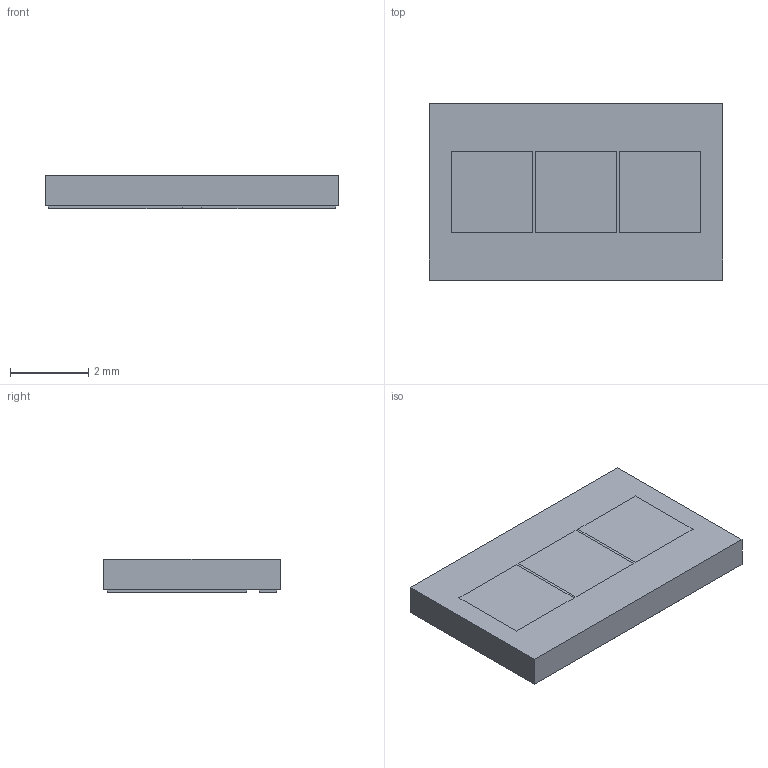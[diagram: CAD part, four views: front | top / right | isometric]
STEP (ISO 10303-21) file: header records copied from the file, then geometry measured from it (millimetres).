
FILE_DESCRIPTION (( 'STEP AP214' ), '1' );
FILE_NAME ('HML3-H8.STEP', '2019-12-31T01:40:43', ( 'PC' ), ( 'Microsoft' ), 'SwSTEP 2.0', 'SolidWorks 2018', '' );
FILE_SCHEMA (( 'AUTOMOTIVE_DESIGN' ));
Length unit declared in the file: millimetre
Products named in the file (1): HML3-H8
Bounding box: 7.5 x 4.5 x 0.85 mm (x, y, z)
Volume: 28.4 mm3; surface area: 88.8 mm2
Topology: 1 solids, 1 shells, 46 faces, 111 edges, 74 vertices
Faces by surface type: plane 46
Entity records: 1855 total; most frequent: CARTESIAN_POINT 232, ORIENTED_EDGE 222, DIRECTION 205, VECTOR 111, EDGE_CURVE 111, LINE 111, VERTEX_POINT 74, EDGE_LOOP 53
